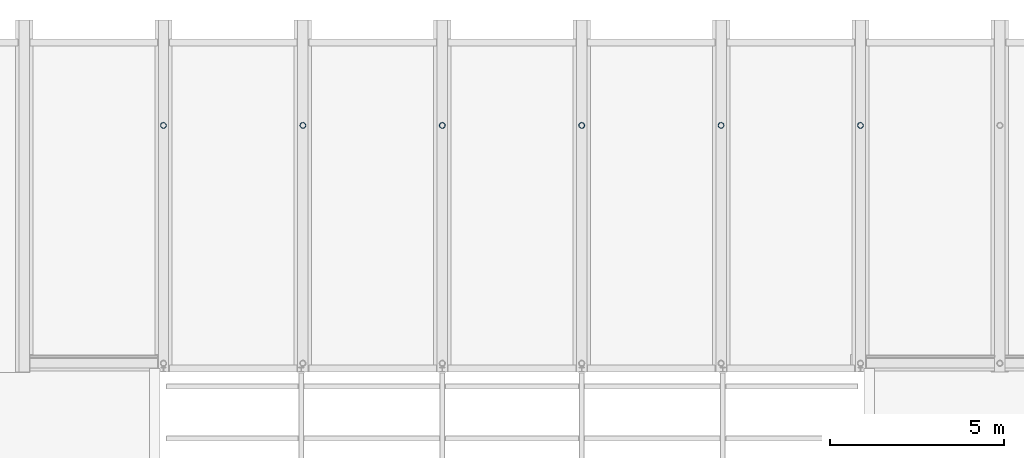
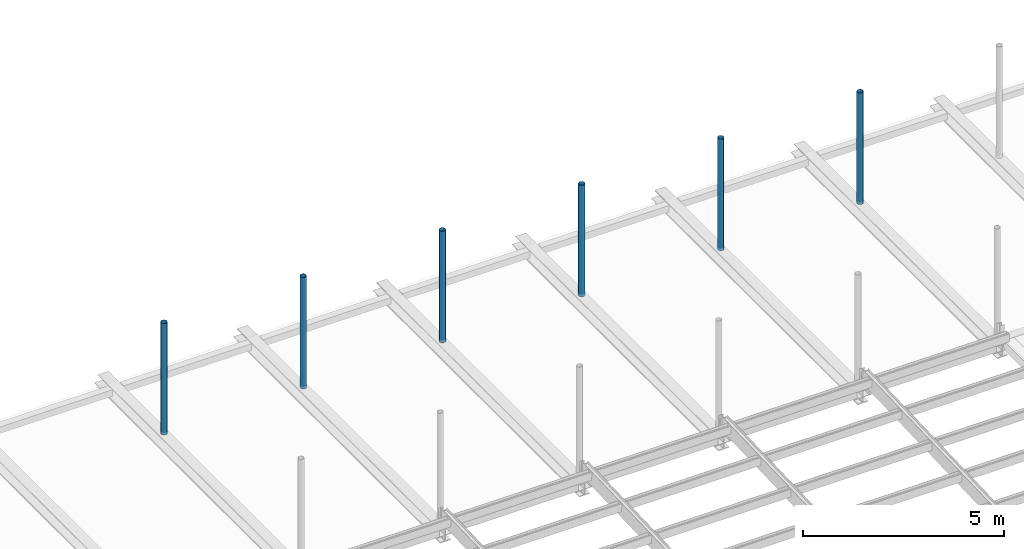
# One storey, part 6 of 31: 6 columns.
"""IFC2X3 building model written with IfcOpenShell, lengths in millimetres."""

import ifcopenshell
import ifcopenshell.guid

model = None  # the IFC model being written
_history = None  # IfcOwnerHistory: only IFC2X3 demands one
_inside = {}  # id of a spatial element -> (the spatial element, [elements in it])
_under = {}  # id of a project, library or spatial element -> (it, [spatial elements below it])
_declared = {}  # id of a project -> (the project, [libraries it declares])
_typed = {}  # id of a type object -> (the type object, [elements of that type])
_made_of = {}  # id of a material, layer set ... -> (it, [elements and type objects made of it])


def new_model(schema):
    """Start an empty IFC model of exactly this schema.

    Asked for "IFC4X3", IfcOpenShell would pick the latest addendum, in which some entities
    have other attributes; the version numbers below select the first issue.
    IFC2X3 requires an IfcOwnerHistory on every rooted entity: one is made here for all.
    """
    global model, _history
    if schema == "IFC4X3":
        model = ifcopenshell.file(schema_version=(4, 3, 0, 0))
    else:
        model = ifcopenshell.file(schema=schema)
    _inside.clear()
    _under.clear()
    _declared.clear()
    _typed.clear()
    _made_of.clear()
    _history = None
    if model.schema == "IFC2X3":
        org = make("IfcOrganization", Name="unknown")
        user = make(
            "IfcPersonAndOrganization",
            ThePerson=make("IfcPerson", FamilyName="unknown"),
            TheOrganization=org,
        )
        app = make(
            "IfcApplication",
            ApplicationDeveloper=org,
            Version="unknown",
            ApplicationFullName="unknown",
            ApplicationIdentifier="unknown",
        )
        _history = make(
            "IfcOwnerHistory",
            OwningUser=user,
            OwningApplication=app,
            ChangeAction="ADDED",
            CreationDate=0,
        )
    return model


def make(cls, **values):
    """One entity of the class cls with the attributes given. An attribute that is None is left unset."""
    return model.create_entity(
        cls, **{name: value for name, value in values.items() if value is not None}
    )


def entity(cls, *values):
    """Any entity or typed value of the class cls, its attributes in the order of the schema. None: left unset."""
    e = model.create_entity(cls)
    for i, value in enumerate(values):
        if value is not None:
            e[i] = value
    return e


def rooted(cls, **values):
    """An entity with a GlobalId (a new one), such as an element, a storey or a relation."""
    return make(cls, GlobalId=ifcopenshell.guid.new(), OwnerHistory=_history, **values)


def si_unit(unit_type, name, prefix=None):
    """IfcSIUnit, for example si_unit("LENGTHUNIT", "METRE", prefix="MILLI")."""
    return make("IfcSIUnit", UnitType=unit_type, Prefix=prefix, Name=name)


def converted_unit(unit_type, name, factor, base, dimensions=None, offset=None):
    """IfcConversionBasedUnit, such as the inch: factor (a typed value) times the base unit."""
    return make(
        "IfcConversionBasedUnit"
        if offset is None
        else "IfcConversionBasedUnitWithOffset",
        ConversionOffset=offset,
        Dimensions=None
        if dimensions is None
        else entity("IfcDimensionalExponents", *dimensions),
        UnitType=unit_type,
        Name=name,
        ConversionFactor=make(
            "IfcMeasureWithUnit", ValueComponent=factor, UnitComponent=base
        ),
    )


def derived_unit(unit_type, elements):
    """IfcDerivedUnit: a product of units, each with its exponent."""
    return make(
        "IfcDerivedUnit",
        Elements=[
            make("IfcDerivedUnitElement", Unit=unit, Exponent=power)
            for unit, power in elements
        ],
        UnitType=unit_type,
    )


def assignment(units):
    """IfcUnitAssignment: the units of a project."""
    return None if units is None else make("IfcUnitAssignment", Units=units)


def point(xyz):
    """IfcCartesianPoint."""
    return None if xyz is None else make("IfcCartesianPoint", Coordinates=xyz)


def direction(xyz):
    """IfcDirection."""
    return None if xyz is None else make("IfcDirection", DirectionRatios=xyz)


def frame(location, z_axis=None, x_axis=None):
    """IfcAxis2Placement3D, a coordinate frame: its origin and axes. An axis left out is left unset."""
    return make(
        "IfcAxis2Placement3D",
        Location=point(location),
        Axis=direction(z_axis),
        RefDirection=direction(x_axis),
    )


def frame_2d(location, x_axis=None):
    """IfcAxis2Placement2D, a coordinate frame in the plane: its origin and x axis."""
    return make(
        "IfcAxis2Placement2D", Location=point(location), RefDirection=direction(x_axis)
    )


def origin():
    """The frame at (0, 0, 0) with its axes left unset."""
    return frame((0.0, 0.0, 0.0))


def place(relative_to, where):
    """IfcLocalPlacement: puts the frame where relative to a parent placement (None: the world)."""
    return make(
        "IfcLocalPlacement", PlacementRelTo=relative_to, RelativePlacement=where
    )


def context(
    kind, dimensions, precision=None, world=None, true_north=None, identifier=None
):
    """IfcGeometricRepresentationContext, for example the 3D "Model" context."""
    return make(
        "IfcGeometricRepresentationContext",
        ContextIdentifier=identifier,
        ContextType=kind,
        CoordinateSpaceDimension=dimensions,
        Precision=precision,
        WorldCoordinateSystem=world,
        TrueNorth=true_north,
    )


def subcontext(parent, identifier, kind, view, scale=None):
    """IfcGeometricRepresentationSubContext, for example "Body" below "Model"."""
    return make(
        "IfcGeometricRepresentationSubContext",
        ContextIdentifier=identifier,
        ContextType=kind,
        ParentContext=parent,
        TargetScale=scale,
        TargetView=view,
    )


def project(units=None, contexts=None):
    """IfcProject with its units and contexts."""
    return rooted(
        "IfcProject",
        Name="project",
        RepresentationContexts=contexts,
        UnitsInContext=assignment(units),
    )


def spatial(cls, under=None, at=None, **own):
    """A site, building, storey or space (cls), placed at a placement, below another one or the project."""
    s = rooted(cls, ObjectPlacement=at, **own)
    if under is not None:
        _under.setdefault(under.id(), (under, []))[1].append(s)
    return s


def profile(cls, at=None, kind="AREA", **sizes):
    """A parametric profile (cls). Its sizes go by their IFC names, for example OverallWidth=200.0."""
    return make(cls, ProfileType=kind, Position=at, **sizes)


def hollow_circle(**sizes):
    """IfcCircleHollowProfileDef."""
    return profile("IfcCircleHollowProfileDef", **sizes)


def extrude(swept, where, along, depth):
    """IfcExtrudedAreaSolid: the profile swept, set in the frame where, extruded along a direction by depth."""
    return make(
        "IfcExtrudedAreaSolid",
        SweptArea=swept,
        Position=where,
        ExtrudedDirection=direction(along),
        Depth=depth,
    )


def shape(context_of_items, identifier, shape_type, items):
    """IfcShapeRepresentation: the items that make up one representation, for example the "Body"."""
    return make(
        "IfcShapeRepresentation",
        ContextOfItems=context_of_items,
        RepresentationIdentifier=identifier,
        RepresentationType=shape_type,
        Items=items,
    )


def source(mapping_origin, context_of_items, identifier, shape_type, items):
    """IfcRepresentationMap: a shape defined once, which mapped items show again and again."""
    return make(
        "IfcRepresentationMap",
        MappingOrigin=mapping_origin,
        MappedRepresentation=shape(context_of_items, identifier, shape_type, items),
    )


def transform(
    local_origin,
    x_axis=None,
    y_axis=None,
    z_axis=None,
    scale=None,
    scale2=None,
    scale3=None,
    uniform=True,
):
    """IfcCartesianTransformationOperator3D, or its non-uniform kind. x_axis, y_axis, z_axis: its Axis1, 2, 3."""
    if uniform:
        return make(
            "IfcCartesianTransformationOperator3D",
            Axis1=direction(x_axis),
            Axis2=direction(y_axis),
            LocalOrigin=point(local_origin),
            Scale=scale,
            Axis3=direction(z_axis),
        )
    return make(
        "IfcCartesianTransformationOperator3DnonUniform",
        Axis1=direction(x_axis),
        Axis2=direction(y_axis),
        LocalOrigin=point(local_origin),
        Scale=scale,
        Axis3=direction(z_axis),
        Scale2=scale2,
        Scale3=scale3,
    )


def mapped(mapping_source, mapping_target):
    """IfcMappedItem: shows the shape of a source again, moved by a transform."""
    return make(
        "IfcMappedItem", MappingSource=mapping_source, MappingTarget=mapping_target
    )


def material(Name=None, Category=None):
    """IfcMaterial."""
    return make("IfcMaterial", Name=Name, Category=Category)


def made_of(thing, what):
    """Note that an element or type object is made of a material, layer set ...; save() writes the relation."""
    if what is not None:
        _made_of.setdefault(what.id(), (what, []))[1].append(thing)
    return thing


def type_object(cls, material=None, **own):
    """A type object (cls), such as IfcWallType, which elements share."""
    return made_of(rooted(cls, **own), material)


def type_shapes(of_type, sources):
    """Give a type object the sources (RepresentationMaps) that its elements show as mapped items."""
    of_type.RepresentationMaps = sources


def element(
    cls,
    number,
    at=None,
    inside=None,
    cuts=None,
    type_object=None,
    material=None,
    context=None,
    identifier="Body",
    shape_type=None,
    held_by="IfcProductDefinitionShape",
    body=None,
    shapes=None,
    **own,
):
    """One element of the class cls, such as IfcWall. Its Tag is "e" and its number.

    at: its placement. inside: the storey or other place that contains it. cuts: it is an
    opening in that element (IfcRelVoidsElement). A single representation is given by context,
    identifier, shape_type and body (its items); several are given by shapes. held_by: the class
    of the entity that holds the representations. save() writes the other relations.
    """
    e = rooted(cls, Tag="e%d" % number, ObjectPlacement=at, **own)
    if body is not None:
        shapes = [shape(context, identifier, shape_type, body)]
    if shapes is not None:
        e.Representation = make(held_by, Representations=shapes)
    if inside is not None:
        _inside.setdefault(inside.id(), (inside, []))[1].append(e)
    if cuts is not None:
        rooted(
            "IfcRelVoidsElement", RelatingBuildingElement=cuts, RelatedOpeningElement=e
        )
    if type_object is not None:
        _typed.setdefault(type_object.id(), (type_object, []))[1].append(e)
    return made_of(e, material)


def aggregate(whole, parts):
    """IfcRelAggregates: a whole, such as a stair, and the parts it consists of."""
    return rooted("IfcRelAggregates", RelatingObject=whole, RelatedObjects=parts)


def save(model, path):
    """Write the relations noted so far, then the file.

    IfcRelAggregates (storeys below a building ...), IfcRelContainedInSpatialStructure (elements
    in a storey), IfcRelDefinesByType, IfcRelAssociatesMaterial and IfcRelDeclares: one each for
    every whole, place, type object, material and project.
    """
    for whole, parts in _under.values():
        aggregate(whole, parts)
    for where, things in _inside.values():
        rooted(
            "IfcRelContainedInSpatialStructure",
            RelatedElements=things,
            RelatingStructure=where,
        )
    for kind, things in _typed.values():
        rooted("IfcRelDefinesByType", RelatedObjects=things, RelatingType=kind)
    for what, things in _made_of.values():
        rooted("IfcRelAssociatesMaterial", RelatedObjects=things, RelatingMaterial=what)
    for by, libraries in _declared.values():
        rooted("IfcRelDeclares", RelatingContext=by, RelatedDefinitions=libraries)
    model.write(path)


model = new_model("IFC2X3")

# Units and contexts
model_context = context("Model", 3, precision=0.01, world=origin(), true_north=direction((6.12303176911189e-17, 1.0)))
body_context = subcontext(model_context, "Body", "Model", "MODEL_VIEW")
ifc_project = project(units=[si_unit("LENGTHUNIT", "METRE", prefix="MILLI"), si_unit("AREAUNIT", "SQUARE_METRE"), si_unit("VOLUMEUNIT", "CUBIC_METRE"), converted_unit("PLANEANGLEUNIT", "DEGREE", entity("IfcRatioMeasure", 0.0174532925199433), si_unit("PLANEANGLEUNIT", "RADIAN"), dimensions=[0, 0, 0, 0, 0, 0, 0]), si_unit("MASSUNIT", "GRAM", prefix="KILO"), derived_unit("MASSDENSITYUNIT", [(si_unit("MASSUNIT", "GRAM", prefix="KILO"), 1), (si_unit("LENGTHUNIT", "METRE"), -3)]), si_unit("TIMEUNIT", "SECOND"), si_unit("FREQUENCYUNIT", "HERTZ"), si_unit("THERMODYNAMICTEMPERATUREUNIT", "DEGREE_CELSIUS"), derived_unit("THERMALTRANSMITTANCEUNIT", [(si_unit("MASSUNIT", "GRAM", prefix="KILO"), 1), (si_unit("THERMODYNAMICTEMPERATUREUNIT", "KELVIN"), -1), (si_unit("TIMEUNIT", "SECOND"), -3)]), derived_unit("VOLUMETRICFLOWRATEUNIT", [(si_unit("LENGTHUNIT", "METRE"), 3), (si_unit("TIMEUNIT", "SECOND"), -1)]), si_unit("ELECTRICCURRENTUNIT", "AMPERE"), si_unit("ELECTRICVOLTAGEUNIT", "VOLT"), si_unit("POWERUNIT", "WATT"), si_unit("FORCEUNIT", "NEWTON", prefix="KILO"), si_unit("ILLUMINANCEUNIT", "LUX"), si_unit("LUMINOUSFLUXUNIT", "LUMEN"), si_unit("LUMINOUSINTENSITYUNIT", "CANDELA"), derived_unit("USERDEFINED", [(si_unit("MASSUNIT", "GRAM", prefix="KILO"), -1), (si_unit("LENGTHUNIT", "METRE"), -2), (si_unit("TIMEUNIT", "SECOND"), 3), (si_unit("LUMINOUSFLUXUNIT", "LUMEN"), 1)]), derived_unit("LINEARVELOCITYUNIT", [(si_unit("LENGTHUNIT", "METRE"), 1), (si_unit("TIMEUNIT", "SECOND"), -1)]), si_unit("PRESSUREUNIT", "PASCAL"), derived_unit("USERDEFINED", [(si_unit("LENGTHUNIT", "METRE"), -2), (si_unit("MASSUNIT", "GRAM", prefix="KILO"), 1), (si_unit("TIMEUNIT", "SECOND"), -2)])], contexts=[model_context])

# Site, building, storey
site_placement = place(None, origin())
site = spatial("IfcSite", under=ifc_project, at=site_placement, Name="Default", CompositionType="ELEMENT")
building_placement = place(site_placement, origin())
building = spatial("IfcBuilding", under=site, at=building_placement, Name="niet gebruiken", CompositionType="ELEMENT")
storey_placement = place(building_placement, frame((0.0, 0.0, 12000.0)))
storey = spatial("IfcBuildingStorey", under=building, at=storey_placement, Name="03 derde verdieping", CompositionType="ELEMENT", Elevation=12000.0)

# Columns
ifc_material = material(Name="NLRS_h2_staal")
column_type = type_object("IfcColumnType", Name="kolom buisprofiel rond CHS_168.3x8", PredefinedType="COLUMN", material=ifc_material)
shared_shape = source(origin(), body_context, "Body", "SweptSolid", [
    extrude(hollow_circle(Radius=84.15, WallThickness=8.0, at=frame_2d((-7.74492256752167e-19, -1.35948075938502e-13), x_axis=(1.0, 0.0))), frame((0.0, 0.0, 13340.0)), (0.0, 0.0, 1.0), 3389.99999999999),
])
type_shapes(column_type, [shared_shape])
for number, where, name in (
    (1, (131750.0, 50325.0, -12000.0), "NLRS_28.11_SCO_TLB_stalen kolom buisprofiel rond_gen:kolom buisprofiel rond CHS_168.3x8"),
    (2, (135750.0, 50325.0, -12000.0), "NLRS_28.11_SCO_TLB_stalen kolom buisprofiel rond_gen:kolom buisprofiel rond CHS_168.3x8"),
    (3, (139750.0, 50325.0, -12000.0), "NLRS_28.11_SCO_TLB_stalen kolom buisprofiel rond_gen:kolom buisprofiel rond CHS_168.3x8"),
    (4, (143750.0, 50325.0, -12000.0), "NLRS_28.11_SCO_TLB_stalen kolom buisprofiel rond_gen:kolom buisprofiel rond CHS_168.3x8"),
    (5, (147750.0, 50325.0, -12000.0), "NLRS_28.11_SCO_TLB_stalen kolom buisprofiel rond_gen:kolom buisprofiel rond CHS_168.3x8"),
    (6, (151750.0, 50325.0, -12000.0), "NLRS_28.11_SCO_TLB_stalen kolom buisprofiel rond_gen:kolom buisprofiel rond CHS_168.3x8"),
):
    element("IfcColumn", number, at=place(storey_placement, frame(where)), inside=storey, type_object=column_type, material=ifc_material, Name=name, ObjectType="kolom buisprofiel rond CHS_168.3x8", context=body_context, shape_type="MappedRepresentation", body=[
        mapped(shared_shape, transform((0.0, 0.0, 0.0), scale=1.0)),
    ])

save(model, "model.ifc")
